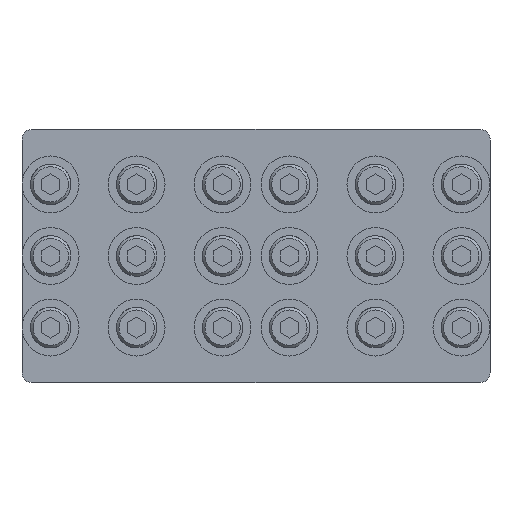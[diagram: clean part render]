
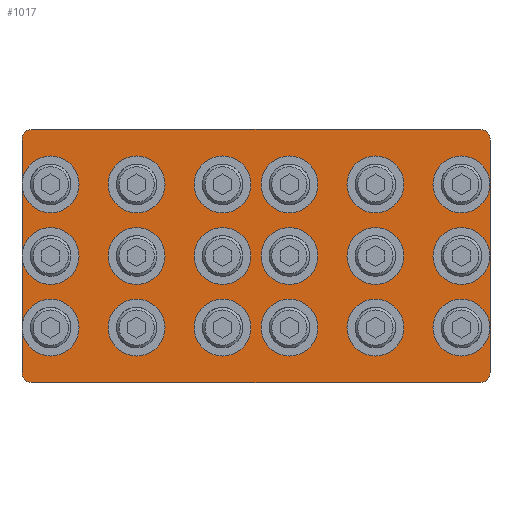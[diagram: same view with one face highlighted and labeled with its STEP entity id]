
A CAD part, left-side view. The second image highlights one B-rep face of the part: STEP entity #1017.
In plain terms, the highlighted planar face has unit normal (-1, 0, 0) as drawn and (0, 0, 1) by its records, which use the part's own axes.
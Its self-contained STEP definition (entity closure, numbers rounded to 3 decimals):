
#1017=ADVANCED_FACE('',(#1531,#1532,#1533,#1534,#1535,#1536,#1537,#1538,#1539,#1540,#1541,#1542,#1543,#1544,#1545,#1546,#1547,#1548,#1549),#1550,.T.);
#1531=FACE_BOUND('',#1950,.T.);
#1532=FACE_BOUND('',#1951,.T.);
#1533=FACE_BOUND('',#1952,.T.);
#1534=FACE_BOUND('',#1953,.T.);
#1535=FACE_BOUND('',#1954,.T.);
#1536=FACE_BOUND('',#1955,.T.);
#1537=FACE_BOUND('',#1956,.T.);
#1538=FACE_BOUND('',#1957,.T.);
#1539=FACE_BOUND('',#1958,.T.);
#1540=FACE_OUTER_BOUND('',#1959,.T.);
#1541=FACE_BOUND('',#1960,.T.);
#1542=FACE_BOUND('',#1961,.T.);
#1543=FACE_BOUND('',#1962,.T.);
#1544=FACE_BOUND('',#1963,.T.);
#1545=FACE_BOUND('',#1964,.T.);
#1546=FACE_BOUND('',#1965,.T.);
#1547=FACE_BOUND('',#1966,.T.);
#1548=FACE_BOUND('',#1967,.T.);
#1549=FACE_BOUND('',#1968,.T.);
#1550=PLANE('',#1969);
#1950=EDGE_LOOP('',(#2589));
#1951=EDGE_LOOP('',(#2590));
#1952=EDGE_LOOP('',(#2591));
#1953=EDGE_LOOP('',(#2592));
#1954=EDGE_LOOP('',(#2593));
#1955=EDGE_LOOP('',(#2594));
#1956=EDGE_LOOP('',(#2595));
#1957=EDGE_LOOP('',(#2596));
#1958=EDGE_LOOP('',(#2597));
#1959=EDGE_LOOP('',(#2598,#2599,#2600,#2601,#2602,#2603,#2604,#2605));
#1960=EDGE_LOOP('',(#2606));
#1961=EDGE_LOOP('',(#2607));
#1962=EDGE_LOOP('',(#2608));
#1963=EDGE_LOOP('',(#2609));
#1964=EDGE_LOOP('',(#2610));
#1965=EDGE_LOOP('',(#2611));
#1966=EDGE_LOOP('',(#2612));
#1967=EDGE_LOOP('',(#2613));
#1968=EDGE_LOOP('',(#2614));
#1969=AXIS2_PLACEMENT_3D('',#2615,#2616,#2617);
#2589=ORIENTED_EDGE('',*,*,#3240,.T.);
#2590=ORIENTED_EDGE('',*,*,#3228,.T.);
#2591=ORIENTED_EDGE('',*,*,#3241,.T.);
#2592=ORIENTED_EDGE('',*,*,#3147,.T.);
#2593=ORIENTED_EDGE('',*,*,#3242,.T.);
#2594=ORIENTED_EDGE('',*,*,#3101,.T.);
#2595=ORIENTED_EDGE('',*,*,#3243,.T.);
#2596=ORIENTED_EDGE('',*,*,#3244,.T.);
#2597=ORIENTED_EDGE('',*,*,#3245,.T.);
#2598=ORIENTED_EDGE('',*,*,#3199,.T.);
#2599=ORIENTED_EDGE('',*,*,#3246,.T.);
#2600=ORIENTED_EDGE('',*,*,#3247,.T.);
#2601=ORIENTED_EDGE('',*,*,#3191,.T.);
#2602=ORIENTED_EDGE('',*,*,#3248,.T.);
#2603=ORIENTED_EDGE('',*,*,#3249,.T.);
#2604=ORIENTED_EDGE('',*,*,#3215,.T.);
#2605=ORIENTED_EDGE('',*,*,#3250,.T.);
#2606=ORIENTED_EDGE('',*,*,#3234,.T.);
#2607=ORIENTED_EDGE('',*,*,#3222,.T.);
#2608=ORIENTED_EDGE('',*,*,#3173,.T.);
#2609=ORIENTED_EDGE('',*,*,#3251,.T.);
#2610=ORIENTED_EDGE('',*,*,#3202,.T.);
#2611=ORIENTED_EDGE('',*,*,#3104,.T.);
#2612=ORIENTED_EDGE('',*,*,#3252,.T.);
#2613=ORIENTED_EDGE('',*,*,#3159,.T.);
#2614=ORIENTED_EDGE('',*,*,#3161,.T.);
#2615=CARTESIAN_POINT('',(2.,2.,1.5));
#2616=DIRECTION('',(0.0,0.0,1.0));
#2617=DIRECTION('',(1.0,0.0,0.0));
#3101=EDGE_CURVE('',#4131,#4131,#4132,.T.);
#3104=EDGE_CURVE('',#4136,#4136,#4137,.T.);
#3147=EDGE_CURVE('',#4217,#4217,#4218,.T.);
#3159=EDGE_CURVE('',#4236,#4236,#4237,.T.);
#3161=EDGE_CURVE('',#4239,#4239,#4240,.T.);
#3173=EDGE_CURVE('',#4258,#4258,#4259,.T.);
#3191=EDGE_CURVE('',#4289,#4287,#4290,.T.);
#3199=EDGE_CURVE('',#4301,#4299,#4302,.T.);
#3202=EDGE_CURVE('',#4305,#4305,#4306,.T.);
#3215=EDGE_CURVE('',#4325,#4323,#4326,.T.);
#3222=EDGE_CURVE('',#4335,#4335,#4336,.T.);
#3228=EDGE_CURVE('',#4344,#4344,#4345,.T.);
#3234=EDGE_CURVE('',#4353,#4353,#4354,.T.);
#3240=EDGE_CURVE('',#4362,#4362,#4363,.T.);
#3241=EDGE_CURVE('',#4364,#4364,#4365,.T.);
#3242=EDGE_CURVE('',#4366,#4366,#4367,.T.);
#3243=EDGE_CURVE('',#4368,#4368,#4369,.T.);
#3244=EDGE_CURVE('',#4370,#4370,#4371,.T.);
#3245=EDGE_CURVE('',#4372,#4372,#4373,.T.);
#3246=EDGE_CURVE('',#4299,#4374,#4375,.T.);
#3247=EDGE_CURVE('',#4374,#4289,#4376,.T.);
#3248=EDGE_CURVE('',#4287,#4377,#4378,.T.);
#3249=EDGE_CURVE('',#4377,#4325,#4379,.T.);
#3250=EDGE_CURVE('',#4323,#4301,#4380,.T.);
#3251=EDGE_CURVE('',#4381,#4381,#4382,.T.);
#3252=EDGE_CURVE('',#4383,#4383,#4384,.T.);
#4131=VERTEX_POINT('',#4718);
#4132=CIRCLE('',#4719,2.6);
#4136=VERTEX_POINT('',#4723);
#4137=CIRCLE('',#4724,2.6);
#4217=VERTEX_POINT('',#4818);
#4218=CIRCLE('',#4819,2.6);
#4236=VERTEX_POINT('',#4840);
#4237=CIRCLE('',#4841,2.6);
#4239=VERTEX_POINT('',#4843);
#4240=CIRCLE('',#4844,2.6);
#4258=VERTEX_POINT('',#4862);
#4259=CIRCLE('',#4863,2.6);
#4287=VERTEX_POINT('',#4897);
#4289=VERTEX_POINT('',#4900);
#4290=LINE('',#4901,#4902);
#4299=VERTEX_POINT('',#4915);
#4301=VERTEX_POINT('',#4918);
#4302=CIRCLE('',#4919,2.0);
#4305=VERTEX_POINT('',#4923);
#4306=CIRCLE('',#4924,2.6);
#4323=VERTEX_POINT('',#4946);
#4325=VERTEX_POINT('',#4949);
#4326=CIRCLE('',#4950,2.0);
#4335=VERTEX_POINT('',#4960);
#4336=CIRCLE('',#4961,2.6);
#4344=VERTEX_POINT('',#4972);
#4345=CIRCLE('',#4973,2.6);
#4353=VERTEX_POINT('',#4984);
#4354=CIRCLE('',#4985,2.6);
#4362=VERTEX_POINT('',#4996);
#4363=CIRCLE('',#4997,2.6);
#4364=VERTEX_POINT('',#4998);
#4365=CIRCLE('',#4999,2.6);
#4366=VERTEX_POINT('',#5000);
#4367=CIRCLE('',#5001,2.6);
#4368=VERTEX_POINT('',#5002);
#4369=CIRCLE('',#5003,2.6);
#4370=VERTEX_POINT('',#5004);
#4371=CIRCLE('',#5005,2.6);
#4372=VERTEX_POINT('',#5006);
#4373=CIRCLE('',#5007,2.6);
#4374=VERTEX_POINT('',#5008);
#4375=LINE('',#5009,#5010);
#4376=CIRCLE('',#5011,2.);
#4377=VERTEX_POINT('',#5012);
#4378=CIRCLE('',#5013,2.);
#4379=LINE('',#5014,#5015);
#4380=LINE('',#5016,#5017);
#4381=VERTEX_POINT('',#5018);
#4382=CIRCLE('',#5019,2.6);
#4383=VERTEX_POINT('',#5020);
#4384=CIRCLE('',#5021,2.6);
#4718=CARTESIAN_POINT('',(21.4,11.5,1.5));
#4719=AXIS2_PLACEMENT_3D('',#5545,#5546,#5547);
#4723=CARTESIAN_POINT('',(39.4,41.5,1.5));
#4724=AXIS2_PLACEMENT_3D('',#5551,#5552,#5553);
#4818=CARTESIAN_POINT('',(21.4,41.5,1.5));
#4819=AXIS2_PLACEMENT_3D('',#5637,#5638,#5639);
#4840=CARTESIAN_POINT('',(89.4,26.5,1.5));
#4841=AXIS2_PLACEMENT_3D('',#5655,#5656,#5657);
#4843=CARTESIAN_POINT('',(89.4,41.5,1.5));
#4844=AXIS2_PLACEMENT_3D('',#5658,#5659,#5660);
#4862=CARTESIAN_POINT('',(53.4,11.5,1.5));
#4863=AXIS2_PLACEMENT_3D('',#5679,#5680,#5681);
#4897=CARTESIAN_POINT('',(98.0,51.0,1.5));
#4900=CARTESIAN_POINT('',(98.0,2.,1.5));
#4901=CARTESIAN_POINT('',(98.0,2.,1.5));
#4902=VECTOR('',#5704,1.0);
#4915=CARTESIAN_POINT('',(2.,0.,1.5));
#4918=CARTESIAN_POINT('',(0.,2.,1.5));
#4919=AXIS2_PLACEMENT_3D('',#5710,#5711,#5712);
#4923=CARTESIAN_POINT('',(39.4,26.5,1.5));
#4924=AXIS2_PLACEMENT_3D('',#5714,#5715,#5716);
#4946=CARTESIAN_POINT('',(0.,51.0,1.5));
#4949=CARTESIAN_POINT('',(2.,53.0,1.5));
#4950=AXIS2_PLACEMENT_3D('',#5729,#5730,#5731);
#4960=CARTESIAN_POINT('',(53.4,41.5,1.5));
#4961=AXIS2_PLACEMENT_3D('',#5739,#5740,#5741);
#4972=CARTESIAN_POINT('',(3.4,26.5,1.5));
#4973=AXIS2_PLACEMENT_3D('',#5745,#5746,#5747);
#4984=CARTESIAN_POINT('',(71.4,11.5,1.5));
#4985=AXIS2_PLACEMENT_3D('',#5751,#5752,#5753);
#4996=CARTESIAN_POINT('',(3.4,41.5,1.5));
#4997=AXIS2_PLACEMENT_3D('',#5757,#5758,#5759);
#4998=CARTESIAN_POINT('',(3.4,11.5,1.5));
#4999=AXIS2_PLACEMENT_3D('',#5760,#5761,#5762);
#5000=CARTESIAN_POINT('',(21.4,26.5,1.5));
#5001=AXIS2_PLACEMENT_3D('',#5763,#5764,#5765);
#5002=CARTESIAN_POINT('',(53.4,26.5,1.5));
#5003=AXIS2_PLACEMENT_3D('',#5766,#5767,#5768);
#5004=CARTESIAN_POINT('',(71.4,26.5,1.5));
#5005=AXIS2_PLACEMENT_3D('',#5769,#5770,#5771);
#5006=CARTESIAN_POINT('',(71.4,41.5,1.5));
#5007=AXIS2_PLACEMENT_3D('',#5772,#5773,#5774);
#5008=CARTESIAN_POINT('',(96.0,0.,1.5));
#5009=CARTESIAN_POINT('',(2.,0.,1.5));
#5010=VECTOR('',#5775,1.0);
#5011=AXIS2_PLACEMENT_3D('',#5776,#5777,#5778);
#5012=CARTESIAN_POINT('',(96.0,53.0,1.5));
#5013=AXIS2_PLACEMENT_3D('',#5779,#5780,#5781);
#5014=CARTESIAN_POINT('',(96.0,53.0,1.5));
#5015=VECTOR('',#5782,1.0);
#5016=CARTESIAN_POINT('',(0.,51.0,1.5));
#5017=VECTOR('',#5783,1.0);
#5018=CARTESIAN_POINT('',(39.4,11.5,1.5));
#5019=AXIS2_PLACEMENT_3D('',#5784,#5785,#5786);
#5020=CARTESIAN_POINT('',(89.4,11.5,1.5));
#5021=AXIS2_PLACEMENT_3D('',#5787,#5788,#5789);
#5545=CARTESIAN_POINT('',(24.,11.5,1.5));
#5546=DIRECTION('',(0.0,0.0,-1.0));
#5547=DIRECTION('',(-1.0,0.0,0.0));
#5551=CARTESIAN_POINT('',(42.0,41.5,1.5));
#5552=DIRECTION('',(0.0,0.0,-1.0));
#5553=DIRECTION('',(-1.0,0.0,0.0));
#5637=CARTESIAN_POINT('',(24.,41.5,1.5));
#5638=DIRECTION('',(0.0,0.0,-1.0));
#5639=DIRECTION('',(-1.0,0.0,0.0));
#5655=CARTESIAN_POINT('',(92.0,26.5,1.5));
#5656=DIRECTION('',(0.0,0.0,-1.0));
#5657=DIRECTION('',(-1.0,0.0,0.0));
#5658=CARTESIAN_POINT('',(92.0,41.5,1.5));
#5659=DIRECTION('',(0.0,0.0,-1.0));
#5660=DIRECTION('',(-1.0,0.0,0.0));
#5679=CARTESIAN_POINT('',(56.0,11.5,1.5));
#5680=DIRECTION('',(0.0,0.0,-1.0));
#5681=DIRECTION('',(-1.0,0.0,0.0));
#5704=DIRECTION('',(0.0,1.0,0.0));
#5710=CARTESIAN_POINT('',(2.,2.,1.5));
#5711=DIRECTION('',(0.0,0.0,1.0));
#5712=DIRECTION('',(1.0,0.0,0.0));
#5714=CARTESIAN_POINT('',(42.0,26.5,1.5));
#5715=DIRECTION('',(0.0,0.0,-1.0));
#5716=DIRECTION('',(-1.0,0.0,0.0));
#5729=CARTESIAN_POINT('',(2.,51.0,1.5));
#5730=DIRECTION('',(0.0,0.0,1.0));
#5731=DIRECTION('',(1.0,0.0,0.0));
#5739=CARTESIAN_POINT('',(56.0,41.5,1.5));
#5740=DIRECTION('',(0.0,0.0,-1.0));
#5741=DIRECTION('',(-1.0,0.0,0.0));
#5745=CARTESIAN_POINT('',(6.,26.5,1.5));
#5746=DIRECTION('',(0.0,0.0,-1.0));
#5747=DIRECTION('',(-1.0,0.0,0.0));
#5751=CARTESIAN_POINT('',(74.0,11.5,1.5));
#5752=DIRECTION('',(0.0,0.0,-1.0));
#5753=DIRECTION('',(-1.0,0.0,0.0));
#5757=CARTESIAN_POINT('',(6.,41.5,1.5));
#5758=DIRECTION('',(0.0,0.0,-1.0));
#5759=DIRECTION('',(-1.0,0.0,0.0));
#5760=CARTESIAN_POINT('',(6.,11.5,1.5));
#5761=DIRECTION('',(0.0,0.0,-1.0));
#5762=DIRECTION('',(-1.0,0.0,0.0));
#5763=CARTESIAN_POINT('',(24.,26.5,1.5));
#5764=DIRECTION('',(0.0,0.0,-1.0));
#5765=DIRECTION('',(-1.0,0.0,0.0));
#5766=CARTESIAN_POINT('',(56.0,26.5,1.5));
#5767=DIRECTION('',(0.0,0.0,-1.0));
#5768=DIRECTION('',(-1.0,0.0,0.0));
#5769=CARTESIAN_POINT('',(74.0,26.5,1.5));
#5770=DIRECTION('',(0.0,0.0,-1.0));
#5771=DIRECTION('',(-1.0,0.0,0.0));
#5772=CARTESIAN_POINT('',(74.0,41.5,1.5));
#5773=DIRECTION('',(0.0,0.0,-1.0));
#5774=DIRECTION('',(-1.0,0.0,0.0));
#5775=DIRECTION('',(1.0,0.0,0.0));
#5776=CARTESIAN_POINT('',(96.0,2.,1.5));
#5777=DIRECTION('',(0.0,0.0,1.0));
#5778=DIRECTION('',(1.0,0.0,0.0));
#5779=CARTESIAN_POINT('',(96.0,51.0,1.5));
#5780=DIRECTION('',(0.0,0.0,1.0));
#5781=DIRECTION('',(1.0,0.0,0.0));
#5782=DIRECTION('',(-1.0,0.0,0.0));
#5783=DIRECTION('',(0.0,-1.0,0.0));
#5784=CARTESIAN_POINT('',(42.0,11.5,1.5));
#5785=DIRECTION('',(0.0,0.0,-1.0));
#5786=DIRECTION('',(-1.0,0.0,0.0));
#5787=CARTESIAN_POINT('',(92.0,11.5,1.5));
#5788=DIRECTION('',(0.0,0.0,-1.0));
#5789=DIRECTION('',(-1.0,0.0,0.0));
